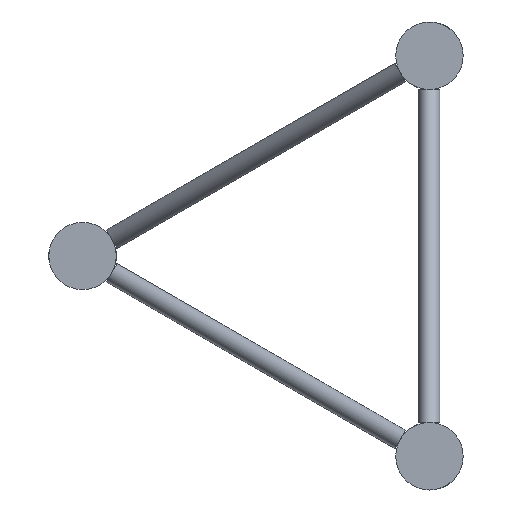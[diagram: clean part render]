
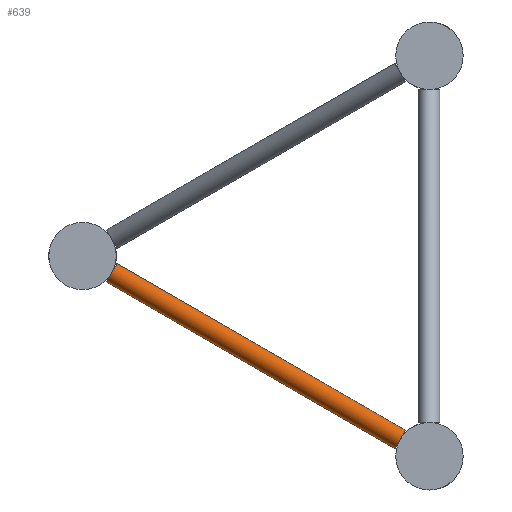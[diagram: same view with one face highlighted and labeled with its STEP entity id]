
A CAD part, left-side view. The second image highlights one B-rep face of the part: STEP entity #639.
In plain terms, the highlighted cylindrical face has radius 5 mm (diameter 10 mm), a full revolution.
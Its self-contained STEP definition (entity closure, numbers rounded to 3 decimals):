
#39=FACE_BOUND('',#142,.T.);
#82=CIRCLE('',#694,4.764);
#83=CIRCLE('',#696,4.764);
#93=CYLINDRICAL_SURFACE('',#692,5.);
#110=FACE_OUTER_BOUND('',#141,.T.);
#141=EDGE_LOOP('',(#446,#447,#448,#449));
#142=EDGE_LOOP('',(#450,#451,#452,#453));
#212=ELLIPSE('',#691,6.104,5.);
#213=ELLIPSE('',#693,8.883,5.491);
#214=ELLIPSE('',#695,6.104,5.);
#215=ELLIPSE('',#697,6.104,5.);
#216=ELLIPSE('',#698,8.883,5.491);
#217=ELLIPSE('',#699,6.104,5.);
#280=VERTEX_POINT('',#910);
#281=VERTEX_POINT('',#911);
#282=VERTEX_POINT('',#915);
#283=VERTEX_POINT('',#917);
#284=VERTEX_POINT('',#920);
#285=VERTEX_POINT('',#921);
#286=VERTEX_POINT('',#923);
#287=VERTEX_POINT('',#925);
#363=EDGE_CURVE('',#281,#280,#212,.T.);
#364=EDGE_CURVE('',#281,#282,#213,.T.);
#365=EDGE_CURVE('',#283,#280,#82,.T.);
#366=EDGE_CURVE('',#283,#282,#214,.T.);
#367=EDGE_CURVE('',#284,#285,#83,.T.);
#368=EDGE_CURVE('',#284,#286,#215,.T.);
#369=EDGE_CURVE('',#287,#286,#216,.T.);
#370=EDGE_CURVE('',#287,#285,#217,.T.);
#446=ORIENTED_EDGE('',*,*,#364,.F.);
#447=ORIENTED_EDGE('',*,*,#363,.T.);
#448=ORIENTED_EDGE('',*,*,#365,.F.);
#449=ORIENTED_EDGE('',*,*,#366,.T.);
#450=ORIENTED_EDGE('',*,*,#367,.F.);
#451=ORIENTED_EDGE('',*,*,#368,.T.);
#452=ORIENTED_EDGE('',*,*,#369,.F.);
#453=ORIENTED_EDGE('',*,*,#370,.T.);
#639=ADVANCED_FACE('',(#110,#39),#93,.T.);
#691=AXIS2_PLACEMENT_3D('',#913,#772,#773);
#692=AXIS2_PLACEMENT_3D('',#914,#774,#775);
#693=AXIS2_PLACEMENT_3D('',#916,#776,#777);
#694=AXIS2_PLACEMENT_3D('',#918,#778,#779);
#695=AXIS2_PLACEMENT_3D('',#919,#780,#781);
#696=AXIS2_PLACEMENT_3D('',#922,#782,#783);
#697=AXIS2_PLACEMENT_3D('',#924,#784,#785);
#698=AXIS2_PLACEMENT_3D('',#926,#786,#787);
#699=AXIS2_PLACEMENT_3D('',#927,#788,#789);
#772=DIRECTION('center_axis',(0.,0.866,0.5));
#773=DIRECTION('ref_axis',(-1.,0.,0.));
#774=DIRECTION('center_axis',(-0.574,0.709,0.41));
#775=DIRECTION('ref_axis',(-0.819,-0.497,-0.287));
#776=DIRECTION('center_axis',(-0.212,-0.846,-0.489));
#777=DIRECTION('ref_axis',(0.977,-0.183,-0.106));
#778=DIRECTION('center_axis',(0.297,-0.827,-0.477));
#779=DIRECTION('ref_axis',(0.95,0.206,0.235));
#780=DIRECTION('center_axis',(0.,0.866,0.5));
#781=DIRECTION('ref_axis',(-1.,0.,0.));
#782=DIRECTION('center_axis',(-0.297,0.827,0.477));
#783=DIRECTION('ref_axis',(-0.95,-0.306,-0.06));
#784=DIRECTION('center_axis',(0.,-0.866,-0.5));
#785=DIRECTION('ref_axis',(-1.,0.,0.));
#786=DIRECTION('center_axis',(0.212,0.846,0.489));
#787=DIRECTION('ref_axis',(0.977,-0.183,-0.106));
#788=DIRECTION('center_axis',(0.,-0.866,-0.5));
#789=DIRECTION('ref_axis',(-1.,0.,0.));
#910=CARTESIAN_POINT('',(186.397,13.61,-181.588));
#911=CARTESIAN_POINT('',(174.246,13.61,-181.588));
#913=CARTESIAN_POINT('Origin',(180.321,13.85,-182.004));
#914=CARTESIAN_POINT('Origin',(125.,82.272,-142.5));
#915=CARTESIAN_POINT('',(174.246,14.09,-182.42));
#916=CARTESIAN_POINT('Origin',(182.894,12.227,-182.941));
#917=CARTESIAN_POINT('',(186.397,14.09,-182.42));
#918=CARTESIAN_POINT('Origin',(181.871,12.631,-182.708));
#919=CARTESIAN_POINT('Origin',(180.321,13.85,-182.004));
#920=CARTESIAN_POINT('',(63.603,150.935,-103.412));
#921=CARTESIAN_POINT('',(63.603,150.454,-102.58));
#922=CARTESIAN_POINT('Origin',(68.129,151.914,-102.292));
#923=CARTESIAN_POINT('',(75.754,150.935,-103.412));
#924=CARTESIAN_POINT('Origin',(69.679,150.695,-102.996));
#925=CARTESIAN_POINT('',(75.754,150.454,-102.58));
#926=CARTESIAN_POINT('Origin',(67.106,152.318,-102.059));
#927=CARTESIAN_POINT('Origin',(69.679,150.695,-102.996));
